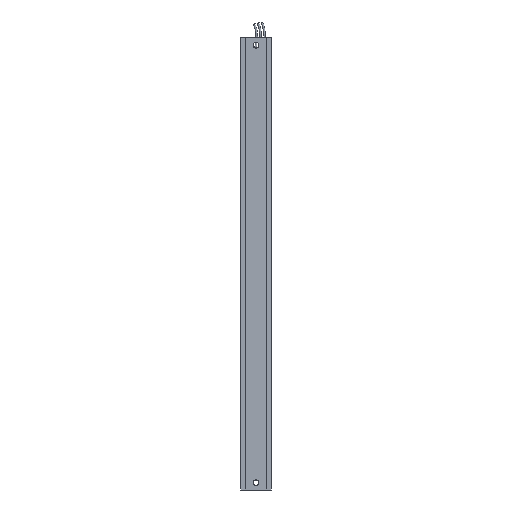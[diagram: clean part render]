
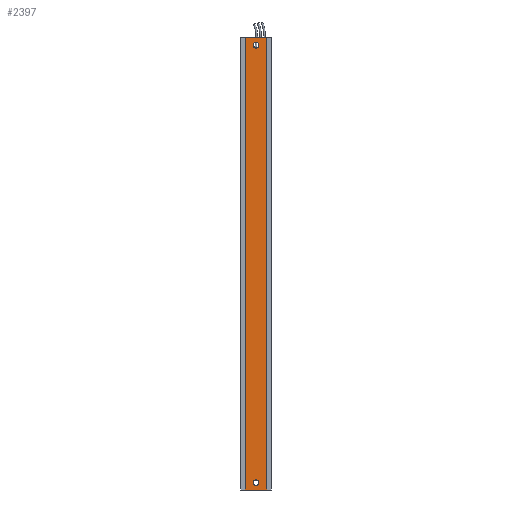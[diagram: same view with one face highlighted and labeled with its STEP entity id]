
A CAD part, front view. The second image highlights one B-rep face of the part: STEP entity #2397.
In plain terms, the highlighted planar face has unit normal (0, -1, 0).
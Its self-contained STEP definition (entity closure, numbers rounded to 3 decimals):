
#542 = DIRECTION ( 'NONE',  ( 0., 1., 0. ) ) ;
#636 = VECTOR ( 'NONE', #17274, 1000. ) ;
#826 = DIRECTION ( 'NONE',  ( 0., -1., 0. ) ) ;
#893 = VERTEX_POINT ( 'NONE', #38511 ) ;
#1417 = DIRECTION ( 'NONE',  ( 0., -1., 0. ) ) ;
#1489 = EDGE_LOOP ( 'NONE', ( #21701, #33942, #50258, #28511 ) ) ;
#1681 = EDGE_LOOP ( 'NONE', ( #10710, #24902 ) ) ;
#1804 = CIRCLE ( 'NONE', #5534, 1.6 ) ;
#2397 = ADVANCED_FACE ( 'NONE', ( #10961, #46494, #16506 ), #27962, .T. ) ;
#3094 = CARTESIAN_POINT ( 'NONE',  ( -1.6, 0.1, 146. ) ) ;
#3192 = DIRECTION ( 'NONE',  ( 0., 0., -1. ) ) ;
#4454 = CARTESIAN_POINT ( 'NONE',  ( 5.9, 0.1, 150. ) ) ;
#5534 = AXIS2_PLACEMENT_3D ( 'NONE', #48686, #21901, #53158 ) ;
#6167 = VERTEX_POINT ( 'NONE', #3094 ) ;
#10478 = VERTEX_POINT ( 'NONE', #4454 ) ;
#10710 = ORIENTED_EDGE ( 'NONE', *, *, #17838, .F. ) ;
#10961 = FACE_OUTER_BOUND ( 'NONE', #1489, .T. ) ;
#11185 = CARTESIAN_POINT ( 'NONE',  ( -6., 0.1, -100. ) ) ;
#11973 = VECTOR ( 'NONE', #22064, 1000. ) ;
#12546 = LINE ( 'NONE', #12808, #636 ) ;
#12808 = CARTESIAN_POINT ( 'NONE',  ( -5.9, 0.1, -100. ) ) ;
#13949 = VECTOR ( 'NONE', #37841, 1000. ) ;
#14512 = CIRCLE ( 'NONE', #34984, 1.6 ) ;
#15359 = LINE ( 'NONE', #11185, #13949 ) ;
#15400 = VERTEX_POINT ( 'NONE', #38663 ) ;
#16241 = VERTEX_POINT ( 'NONE', #27634 ) ;
#16506 = FACE_BOUND ( 'NONE', #34857, .T. ) ;
#17274 = DIRECTION ( 'NONE',  ( 0., 0., -1. ) ) ;
#17600 = CARTESIAN_POINT ( 'NONE',  ( 5.9, 0.1, -100. ) ) ;
#17838 = EDGE_CURVE ( 'NONE', #15400, #893, #23179, .T. ) ;
#19460 = EDGE_CURVE ( 'NONE', #35093, #16241, #12546, .T. ) ;
#21701 = ORIENTED_EDGE ( 'NONE', *, *, #27065, .T. ) ;
#21901 = DIRECTION ( 'NONE',  ( 0., 1., 0. ) ) ;
#22064 = DIRECTION ( 'NONE',  ( 0., 0., 1. ) ) ;
#23179 = CIRCLE ( 'NONE', #33465, 1.6 ) ;
#23497 = EDGE_CURVE ( 'NONE', #35093, #10478, #34042, .T. ) ;
#23629 = AXIS2_PLACEMENT_3D ( 'NONE', #28148, #1417, #32590 ) ;
#23757 = LINE ( 'NONE', #35146, #11973 ) ;
#24902 = ORIENTED_EDGE ( 'NONE', *, *, #56273, .F. ) ;
#26754 = EDGE_CURVE ( 'NONE', #46627, #10478, #23757, .T. ) ;
#27065 = EDGE_CURVE ( 'NONE', #16241, #46627, #15359, .T. ) ;
#27302 = CARTESIAN_POINT ( 'NONE',  ( 0., 0.1, 146. ) ) ;
#27325 = VERTEX_POINT ( 'NONE', #53250 ) ;
#27573 = CARTESIAN_POINT ( 'NONE',  ( 0., 0.1, -96. ) ) ;
#27634 = CARTESIAN_POINT ( 'NONE',  ( -5.9, 0.1, -100. ) ) ;
#27872 = ORIENTED_EDGE ( 'NONE', *, *, #55229, .T. ) ;
#27962 = PLANE ( 'NONE',  #23629 ) ;
#28148 = CARTESIAN_POINT ( 'NONE',  ( -6., 0.1, -100. ) ) ;
#28511 = ORIENTED_EDGE ( 'NONE', *, *, #19460, .T. ) ;
#29757 = CARTESIAN_POINT ( 'NONE',  ( -6., 0.1, 150. ) ) ;
#29890 = DIRECTION ( 'NONE',  ( 0., -1., 0. ) ) ;
#31764 = DIRECTION ( 'NONE',  ( 0., 0., -1. ) ) ;
#32032 = DIRECTION ( 'NONE',  ( 0., 0., -1. ) ) ;
#32590 = DIRECTION ( 'NONE',  ( 0., 0., -1. ) ) ;
#33085 = CIRCLE ( 'NONE', #47086, 1.6 ) ;
#33465 = AXIS2_PLACEMENT_3D ( 'NONE', #56675, #29890, #3192 ) ;
#33942 = ORIENTED_EDGE ( 'NONE', *, *, #26754, .T. ) ;
#34042 = LINE ( 'NONE', #29757, #56438 ) ;
#34252 = DIRECTION ( 'NONE',  ( 1., 0., 0. ) ) ;
#34857 = EDGE_LOOP ( 'NONE', ( #27872, #54431 ) ) ;
#34984 = AXIS2_PLACEMENT_3D ( 'NONE', #27302, #542, #31764 ) ;
#35093 = VERTEX_POINT ( 'NONE', #53215 ) ;
#35146 = CARTESIAN_POINT ( 'NONE',  ( 5.9, 0.1, 150. ) ) ;
#37841 = DIRECTION ( 'NONE',  ( 1., 0., 0. ) ) ;
#38511 = CARTESIAN_POINT ( 'NONE',  ( 1.6, 0.1, -96. ) ) ;
#38663 = CARTESIAN_POINT ( 'NONE',  ( -1.6, 0.1, -96. ) ) ;
#43937 = EDGE_CURVE ( 'NONE', #27325, #6167, #1804, .T. ) ;
#46494 = FACE_BOUND ( 'NONE', #1681, .T. ) ;
#46627 = VERTEX_POINT ( 'NONE', #17600 ) ;
#47086 = AXIS2_PLACEMENT_3D ( 'NONE', #27573, #826, #32032 ) ;
#48686 = CARTESIAN_POINT ( 'NONE',  ( 0., 0.1, 146. ) ) ;
#50258 = ORIENTED_EDGE ( 'NONE', *, *, #23497, .F. ) ;
#53158 = DIRECTION ( 'NONE',  ( 0., 0., -1. ) ) ;
#53215 = CARTESIAN_POINT ( 'NONE',  ( -5.9, 0.1, 150. ) ) ;
#53250 = CARTESIAN_POINT ( 'NONE',  ( 1.6, 0.1, 146. ) ) ;
#54431 = ORIENTED_EDGE ( 'NONE', *, *, #43937, .T. ) ;
#55229 = EDGE_CURVE ( 'NONE', #6167, #27325, #14512, .T. ) ;
#56273 = EDGE_CURVE ( 'NONE', #893, #15400, #33085, .T. ) ;
#56438 = VECTOR ( 'NONE', #34252, 1000. ) ;
#56675 = CARTESIAN_POINT ( 'NONE',  ( 0., 0.1, -96. ) ) ;
